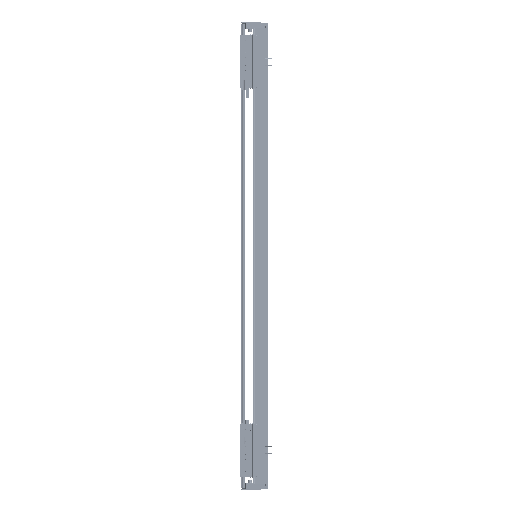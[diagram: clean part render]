
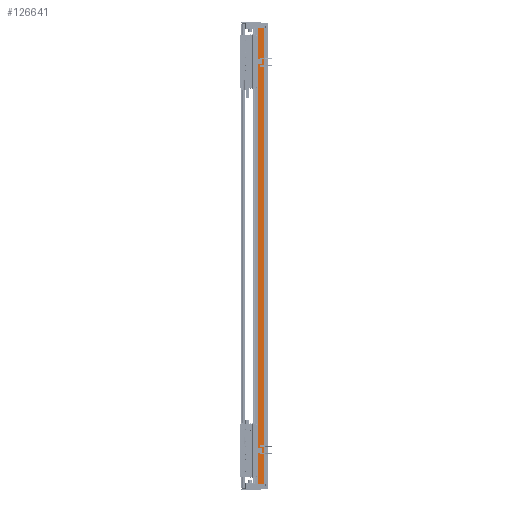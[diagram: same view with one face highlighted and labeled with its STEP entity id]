
A CAD part, left-side view. The second image highlights one B-rep face of the part: STEP entity #126641.
In plain terms, the highlighted planar face has unit normal (-1, 0, 0).
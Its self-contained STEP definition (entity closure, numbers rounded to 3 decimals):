
#10595 = EDGE_CURVE ( 'NONE', #35534, #164362, #42112, .T. ) ;
#12439 = LINE ( 'NONE', #114674, #20968 ) ;
#17096 = VERTEX_POINT ( 'NONE', #165833 ) ;
#17625 = DIRECTION ( 'NONE',  ( 0., -1., 0. ) ) ;
#18972 = EDGE_CURVE ( 'NONE', #17096, #35534, #48875, .T. ) ;
#20968 = VECTOR ( 'NONE', #142542, 1000. ) ;
#24863 = PLANE ( 'NONE',  #137284 ) ;
#29425 = CARTESIAN_POINT ( 'NONE',  ( -97.5, 36.95, -810. ) ) ;
#35534 = VERTEX_POINT ( 'NONE', #51821 ) ;
#37032 = DIRECTION ( 'NONE',  ( 0., 0., -1. ) ) ;
#42112 = LINE ( 'NONE', #29425, #130250 ) ;
#48875 = LINE ( 'NONE', #153641, #65625 ) ;
#51063 = DIRECTION ( 'NONE',  ( 0., 1., 0. ) ) ;
#51821 = CARTESIAN_POINT ( 'NONE',  ( -97.5, 36.95, -810. ) ) ;
#64252 = EDGE_LOOP ( 'NONE', ( #119507, #81827, #120239, #92768 ) ) ;
#64928 = VERTEX_POINT ( 'NONE', #140812 ) ;
#65625 = VECTOR ( 'NONE', #37032, 1000. ) ;
#73137 = VECTOR ( 'NONE', #74680, 1000. ) ;
#74680 = DIRECTION ( 'NONE',  ( 0., -1., 0. ) ) ;
#77786 = CARTESIAN_POINT ( 'NONE',  ( -97.5, 14.45, -810. ) ) ;
#81827 = ORIENTED_EDGE ( 'NONE', *, *, #104820, .F. ) ;
#89942 = DIRECTION ( 'NONE',  ( 1., 0., 0. ) ) ;
#92768 = ORIENTED_EDGE ( 'NONE', *, *, #18972, .T. ) ;
#94416 = EDGE_CURVE ( 'NONE', #17096, #64928, #165895, .T. ) ;
#104820 = EDGE_CURVE ( 'NONE', #64928, #164362, #12439, .T. ) ;
#113627 = FACE_OUTER_BOUND ( 'NONE', #64252, .T. ) ;
#114674 = CARTESIAN_POINT ( 'NONE',  ( -97.5, 14.45, 810. ) ) ;
#119507 = ORIENTED_EDGE ( 'NONE', *, *, #10595, .T. ) ;
#120239 = ORIENTED_EDGE ( 'NONE', *, *, #94416, .F. ) ;
#126641 = ADVANCED_FACE ( 'NONE', ( #113627 ), #24863, .F. ) ;
#130250 = VECTOR ( 'NONE', #17625, 1000. ) ;
#137284 = AXIS2_PLACEMENT_3D ( 'NONE', #141467, #89942, #51063 ) ;
#140812 = CARTESIAN_POINT ( 'NONE',  ( -97.5, 14.45, 810. ) ) ;
#141467 = CARTESIAN_POINT ( 'NONE',  ( -97.5, 36.95, 810. ) ) ;
#142542 = DIRECTION ( 'NONE',  ( 0., 0., -1. ) ) ;
#153641 = CARTESIAN_POINT ( 'NONE',  ( -97.5, 36.95, 810. ) ) ;
#164362 = VERTEX_POINT ( 'NONE', #77786 ) ;
#165063 = CARTESIAN_POINT ( 'NONE',  ( -97.5, 36.95, 810. ) ) ;
#165833 = CARTESIAN_POINT ( 'NONE',  ( -97.5, 36.95, 810. ) ) ;
#165895 = LINE ( 'NONE', #165063, #73137 ) ;
